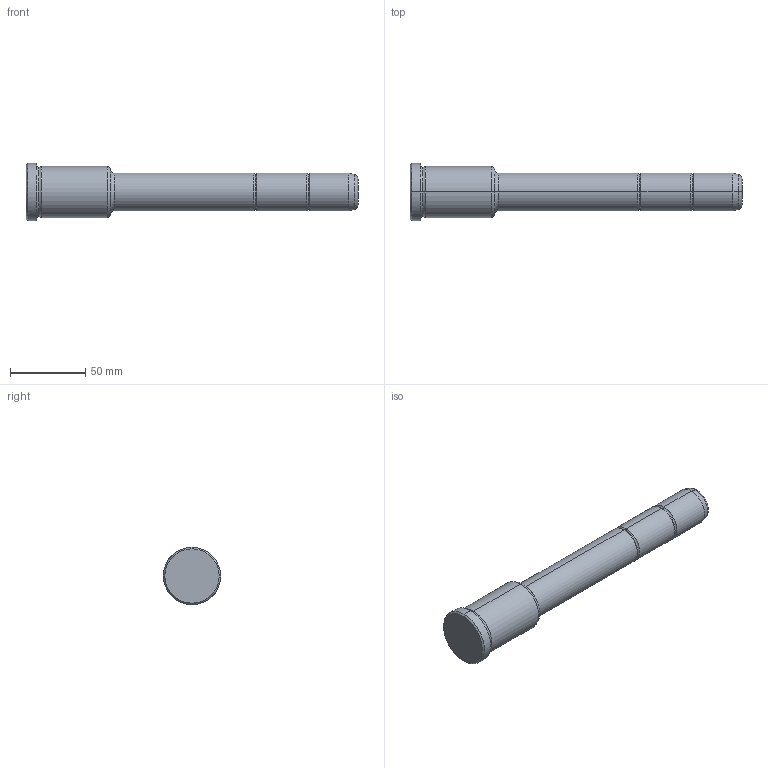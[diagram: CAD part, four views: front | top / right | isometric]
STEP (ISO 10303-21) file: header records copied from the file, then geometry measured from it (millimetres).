
FILE_DESCRIPTION(('CATIA V5 STEP Exchange'),'2;1');
FILE_NAME('C:\Users\Utente\Desktop\IO LAVORO\3D X SITO CF\X SITO\PLASTICA\351\351-25X56X220.stp','2021-09-07T10:14:10+00:00',('none'),('none'),'CATIA Version 5 Release 20 GA (IN-10)','CATIA V5 STEP AP203','none');
FILE_SCHEMA(('CONFIG_CONTROL_DESIGN'));
Length unit declared in the file: millimetre
Products named in the file (1): 351-25X56X220
Bounding box: 220 x 38 x 38 mm (x, y, z)
Volume: 132141.2 mm3; surface area: 20908.3 mm2
Topology: 1 solids, 1 shells, 36 faces, 102 edges, 70 vertices
Faces by surface type: torus 16, cylinder 10, cone 6, plane 4
Entity records: 1292 total; most frequent: CARTESIAN_POINT 321, ORIENTED_EDGE 204, DIRECTION 166, AXIS2_PLACEMENT_3D 115, EDGE_CURVE 102, CIRCLE 78, VERTEX_POINT 70, EDGE_LOOP 38
